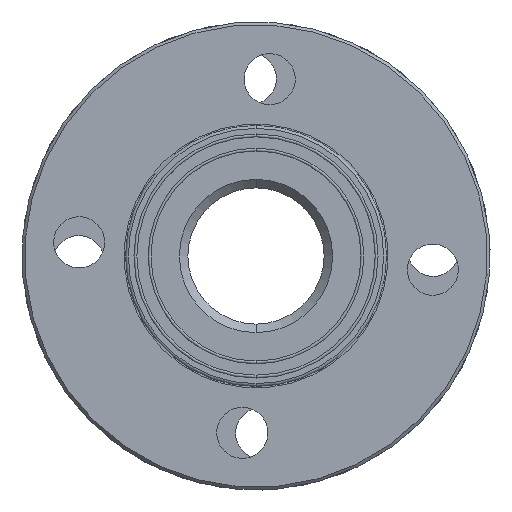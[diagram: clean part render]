
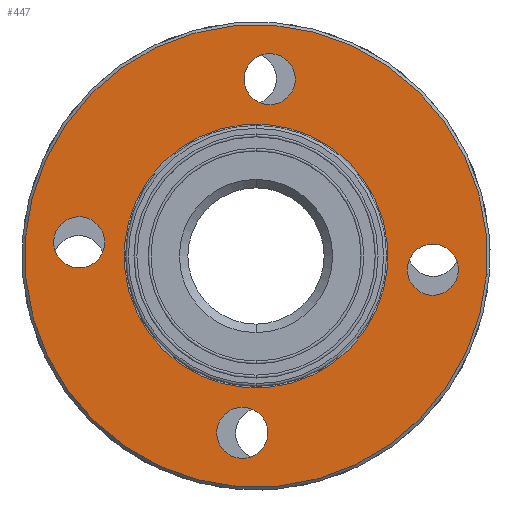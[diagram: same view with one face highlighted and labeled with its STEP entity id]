
A CAD part, left-side view. The second image highlights one B-rep face of the part: STEP entity #447.
In plain terms, the highlighted planar face has unit normal (-1, 0, 0) as drawn and (1, 0, 0) by its records, which use the part's own axes.
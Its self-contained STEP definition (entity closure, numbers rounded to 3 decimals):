
#13 = CARTESIAN_POINT ( 'NONE',  ( 15., -62.5, -9. ) ) ;
#104 = CARTESIAN_POINT ( 'NONE',  ( 15., 62.5, 9. ) ) ;
#142 = CARTESIAN_POINT ( 'NONE',  ( 15., 0., -46.5 ) ) ;
#151 = EDGE_CURVE ( 'NONE', #1352, #429, #1161, .T. ) ;
#159 = CIRCLE ( 'NONE', #2606, 81.5 ) ;
#161 = FACE_BOUND ( 'NONE', #2555, .T. ) ;
#168 = AXIS2_PLACEMENT_3D ( 'NONE', #1081, #2894, #1526 ) ;
#186 = DIRECTION ( 'NONE',  ( -1., 0., 0. ) ) ;
#201 = PLANE ( 'NONE',  #2704 ) ;
#229 = AXIS2_PLACEMENT_3D ( 'NONE', #2805, #982, #1190 ) ;
#260 = DIRECTION ( 'NONE',  ( 0., 0., 1. ) ) ;
#270 = CARTESIAN_POINT ( 'NONE',  ( 15., 62.5, 0. ) ) ;
#371 = CARTESIAN_POINT ( 'NONE',  ( 15., 0., 62.5 ) ) ;
#429 = VERTEX_POINT ( 'NONE', #2317 ) ;
#447 = ADVANCED_FACE ( 'NONE', ( #161, #1227, #2468, #2540, #745, #2612 ), #201, .F. ) ;
#517 = CIRCLE ( 'NONE', #2248, 46.5 ) ;
#528 = AXIS2_PLACEMENT_3D ( 'NONE', #1347, #888, #895 ) ;
#553 = CARTESIAN_POINT ( 'NONE',  ( 15., -62.5, 0. ) ) ;
#633 = ORIENTED_EDGE ( 'NONE', *, *, #990, .T. ) ;
#718 = VERTEX_POINT ( 'NONE', #2151 ) ;
#745 = FACE_OUTER_BOUND ( 'NONE', #1341, .T. ) ;
#766 = ORIENTED_EDGE ( 'NONE', *, *, #835, .T. ) ;
#775 = DIRECTION ( 'NONE',  ( 0., 0., 1. ) ) ;
#806 = DIRECTION ( 'NONE',  ( 0., 0., 1. ) ) ;
#832 = DIRECTION ( 'NONE',  ( 0., 0., 1. ) ) ;
#834 = CIRCLE ( 'NONE', #1894, 9. ) ;
#835 = EDGE_CURVE ( 'NONE', #2743, #1734, #2150, .T. ) ;
#869 = DIRECTION ( 'NONE',  ( 0., 0., 1. ) ) ;
#888 = DIRECTION ( 'NONE',  ( -1., 0., 0. ) ) ;
#895 = DIRECTION ( 'NONE',  ( 0., 0., 1. ) ) ;
#934 = DIRECTION ( 'NONE',  ( -1., 0., 0. ) ) ;
#956 = EDGE_CURVE ( 'NONE', #2812, #2841, #1465, .T. ) ;
#982 = DIRECTION ( 'NONE',  ( -1., 0., 0. ) ) ;
#990 = EDGE_CURVE ( 'NONE', #1734, #2743, #517, .T. ) ;
#1015 = DIRECTION ( 'NONE',  ( 0., 0., 1. ) ) ;
#1028 = CARTESIAN_POINT ( 'NONE',  ( 15., 0., 0. ) ) ;
#1033 = CIRCLE ( 'NONE', #2907, 9. ) ;
#1045 = VERTEX_POINT ( 'NONE', #13 ) ;
#1065 = AXIS2_PLACEMENT_3D ( 'NONE', #371, #2597, #806 ) ;
#1081 = CARTESIAN_POINT ( 'NONE',  ( 15., 0., 62.5 ) ) ;
#1114 = ORIENTED_EDGE ( 'NONE', *, *, #2122, .T. ) ;
#1115 = EDGE_LOOP ( 'NONE', ( #633, #766 ) ) ;
#1116 = CIRCLE ( 'NONE', #2658, 9. ) ;
#1152 = DIRECTION ( 'NONE',  ( 0., 0., 1. ) ) ;
#1154 = DIRECTION ( 'NONE',  ( 0., 0., 1. ) ) ;
#1161 = CIRCLE ( 'NONE', #528, 81.5 ) ;
#1190 = DIRECTION ( 'NONE',  ( 0., 0., 1. ) ) ;
#1204 = CARTESIAN_POINT ( 'NONE',  ( 15., 0., -62.5 ) ) ;
#1227 = FACE_BOUND ( 'NONE', #1675, .T. ) ;
#1307 = EDGE_CURVE ( 'NONE', #1333, #1621, #1788, .T. ) ;
#1333 = VERTEX_POINT ( 'NONE', #1456 ) ;
#1341 = EDGE_LOOP ( 'NONE', ( #2617, #2096 ) ) ;
#1347 = CARTESIAN_POINT ( 'NONE',  ( 15., 0., 0. ) ) ;
#1352 = VERTEX_POINT ( 'NONE', #1518 ) ;
#1429 = DIRECTION ( 'NONE',  ( 0., 0., 1. ) ) ;
#1442 = DIRECTION ( 'NONE',  ( 0., 0., 1. ) ) ;
#1443 = ORIENTED_EDGE ( 'NONE', *, *, #1756, .T. ) ;
#1456 = CARTESIAN_POINT ( 'NONE',  ( 15., 0., 71.5 ) ) ;
#1463 = DIRECTION ( 'NONE',  ( -1., 0., 0. ) ) ;
#1465 = CIRCLE ( 'NONE', #1940, 9. ) ;
#1468 = AXIS2_PLACEMENT_3D ( 'NONE', #2643, #2652, #869 ) ;
#1518 = CARTESIAN_POINT ( 'NONE',  ( 15., 0., 81.5 ) ) ;
#1526 = DIRECTION ( 'NONE',  ( 0., 0., 1. ) ) ;
#1530 = EDGE_LOOP ( 'NONE', ( #2780, #1443 ) ) ;
#1596 = EDGE_LOOP ( 'NONE', ( #1985, #2599 ) ) ;
#1606 = EDGE_CURVE ( 'NONE', #1621, #1333, #2028, .T. ) ;
#1621 = VERTEX_POINT ( 'NONE', #1981 ) ;
#1675 = EDGE_LOOP ( 'NONE', ( #1989, #2229 ) ) ;
#1734 = VERTEX_POINT ( 'NONE', #2514 ) ;
#1756 = EDGE_CURVE ( 'NONE', #2841, #2812, #2064, .T. ) ;
#1788 = CIRCLE ( 'NONE', #1065, 9. ) ;
#1820 = DIRECTION ( 'NONE',  ( -1., 0., 0. ) ) ;
#1893 = EDGE_CURVE ( 'NONE', #429, #1352, #159, .T. ) ;
#1894 = AXIS2_PLACEMENT_3D ( 'NONE', #2593, #2394, #1015 ) ;
#1940 = AXIS2_PLACEMENT_3D ( 'NONE', #270, #2258, #1152 ) ;
#1942 = ORIENTED_EDGE ( 'NONE', *, *, #2853, .T. ) ;
#1981 = CARTESIAN_POINT ( 'NONE',  ( 15., 0., 53.5 ) ) ;
#1985 = ORIENTED_EDGE ( 'NONE', *, *, #1307, .T. ) ;
#1989 = ORIENTED_EDGE ( 'NONE', *, *, #2320, .T. ) ;
#2028 = CIRCLE ( 'NONE', #168, 9. ) ;
#2064 = CIRCLE ( 'NONE', #229, 9. ) ;
#2080 = CARTESIAN_POINT ( 'NONE',  ( 15., 62.5, -9. ) ) ;
#2095 = DIRECTION ( 'NONE',  ( -1., 0., 0. ) ) ;
#2096 = ORIENTED_EDGE ( 'NONE', *, *, #1893, .F. ) ;
#2122 = EDGE_CURVE ( 'NONE', #2342, #718, #2406, .T. ) ;
#2150 = CIRCLE ( 'NONE', #1468, 46.5 ) ;
#2151 = CARTESIAN_POINT ( 'NONE',  ( 15., 0., -53.5 ) ) ;
#2229 = ORIENTED_EDGE ( 'NONE', *, *, #2439, .T. ) ;
#2248 = AXIS2_PLACEMENT_3D ( 'NONE', #2466, #1820, #260 ) ;
#2258 = DIRECTION ( 'NONE',  ( -1., 0., 0. ) ) ;
#2259 = AXIS2_PLACEMENT_3D ( 'NONE', #2630, #186, #832 ) ;
#2317 = CARTESIAN_POINT ( 'NONE',  ( 15., 0., -81.5 ) ) ;
#2320 = EDGE_CURVE ( 'NONE', #2850, #1045, #1116, .T. ) ;
#2342 = VERTEX_POINT ( 'NONE', #2771 ) ;
#2394 = DIRECTION ( 'NONE',  ( -1., 0., 0. ) ) ;
#2406 = CIRCLE ( 'NONE', #2259, 9. ) ;
#2439 = EDGE_CURVE ( 'NONE', #1045, #2850, #834, .T. ) ;
#2466 = CARTESIAN_POINT ( 'NONE',  ( 15., 0., 0. ) ) ;
#2468 = FACE_BOUND ( 'NONE', #1596, .T. ) ;
#2514 = CARTESIAN_POINT ( 'NONE',  ( 15., 0., 46.5 ) ) ;
#2540 = FACE_BOUND ( 'NONE', #1530, .T. ) ;
#2545 = DIRECTION ( 'NONE',  ( -1., 0., 0. ) ) ;
#2555 = EDGE_LOOP ( 'NONE', ( #1942, #1114 ) ) ;
#2593 = CARTESIAN_POINT ( 'NONE',  ( 15., -62.5, 0. ) ) ;
#2597 = DIRECTION ( 'NONE',  ( -1., 0., 0. ) ) ;
#2599 = ORIENTED_EDGE ( 'NONE', *, *, #1606, .T. ) ;
#2606 = AXIS2_PLACEMENT_3D ( 'NONE', #1028, #1463, #1442 ) ;
#2612 = FACE_BOUND ( 'NONE', #1115, .T. ) ;
#2617 = ORIENTED_EDGE ( 'NONE', *, *, #151, .F. ) ;
#2630 = CARTESIAN_POINT ( 'NONE',  ( 15., 0., -62.5 ) ) ;
#2643 = CARTESIAN_POINT ( 'NONE',  ( 15., 0., 0. ) ) ;
#2652 = DIRECTION ( 'NONE',  ( -1., 0., 0. ) ) ;
#2658 = AXIS2_PLACEMENT_3D ( 'NONE', #553, #2095, #1429 ) ;
#2663 = CARTESIAN_POINT ( 'NONE',  ( 15., 81.5, 0. ) ) ;
#2704 = AXIS2_PLACEMENT_3D ( 'NONE', #2663, #934, #1154 ) ;
#2743 = VERTEX_POINT ( 'NONE', #142 ) ;
#2771 = CARTESIAN_POINT ( 'NONE',  ( 15., 0., -71.5 ) ) ;
#2778 = CARTESIAN_POINT ( 'NONE',  ( 15., -62.5, 9. ) ) ;
#2780 = ORIENTED_EDGE ( 'NONE', *, *, #956, .T. ) ;
#2805 = CARTESIAN_POINT ( 'NONE',  ( 15., 62.5, 0. ) ) ;
#2812 = VERTEX_POINT ( 'NONE', #104 ) ;
#2841 = VERTEX_POINT ( 'NONE', #2080 ) ;
#2850 = VERTEX_POINT ( 'NONE', #2778 ) ;
#2853 = EDGE_CURVE ( 'NONE', #718, #2342, #1033, .T. ) ;
#2894 = DIRECTION ( 'NONE',  ( -1., 0., 0. ) ) ;
#2907 = AXIS2_PLACEMENT_3D ( 'NONE', #1204, #2545, #775 ) ;
